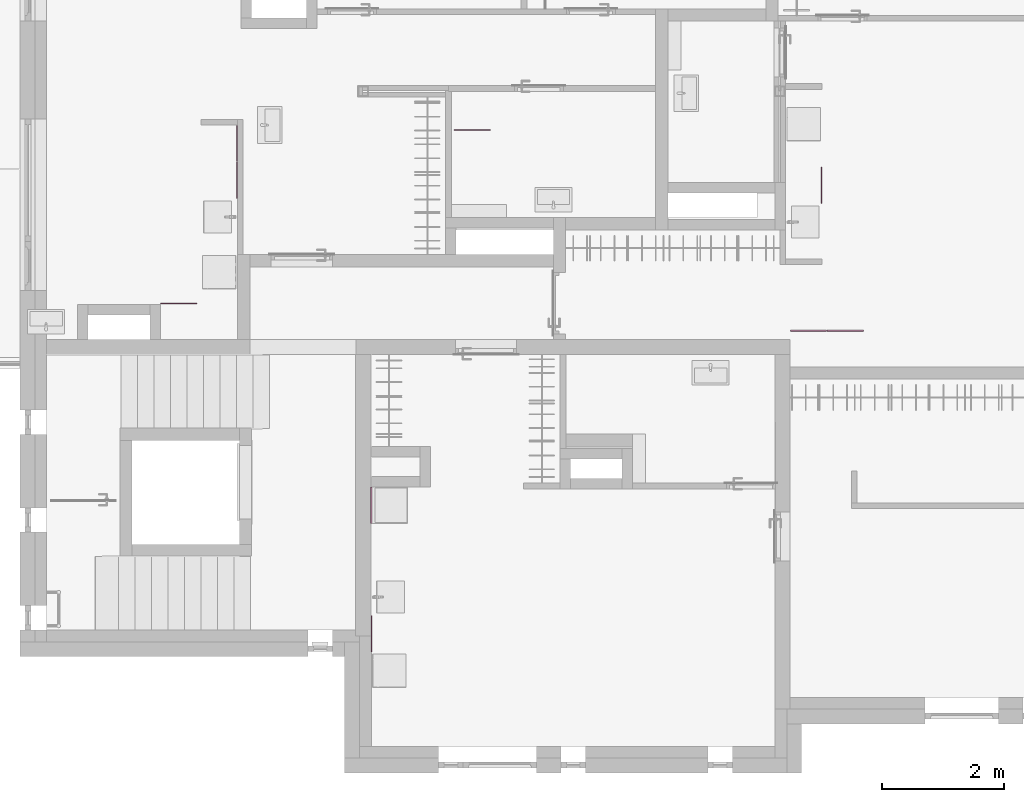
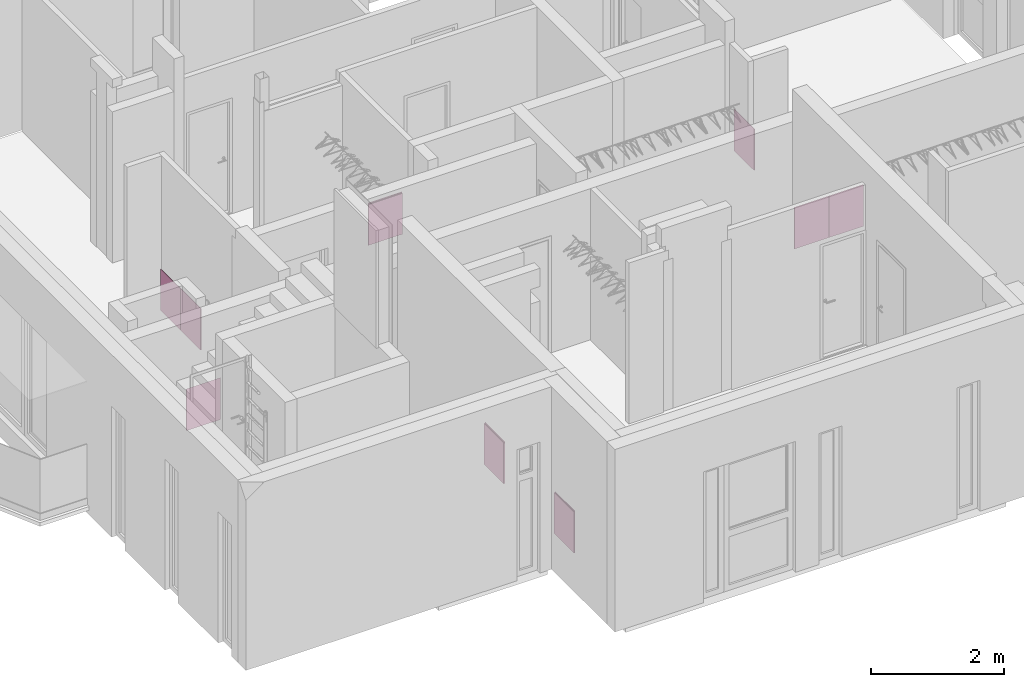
# One storey, part 20 of 42: 9 furnishings.
"""IFC2X3 building model written with IfcOpenShell, lengths in millimetres."""

import ifcopenshell
import ifcopenshell.guid

model = None  # the IFC model being written
_history = None  # IfcOwnerHistory: only IFC2X3 demands one
_inside = {}  # id of a spatial element -> (the spatial element, [elements in it])
_under = {}  # id of a project, library or spatial element -> (it, [spatial elements below it])
_declared = {}  # id of a project -> (the project, [libraries it declares])
_typed = {}  # id of a type object -> (the type object, [elements of that type])
_made_of = {}  # id of a material, layer set ... -> (it, [elements and type objects made of it])


def new_model(schema):
    """Start an empty IFC model of exactly this schema.

    Asked for "IFC4X3", IfcOpenShell would pick the latest addendum, in which some entities
    have other attributes; the version numbers below select the first issue.
    IFC2X3 requires an IfcOwnerHistory on every rooted entity: one is made here for all.
    """
    global model, _history
    if schema == "IFC4X3":
        model = ifcopenshell.file(schema_version=(4, 3, 0, 0))
    else:
        model = ifcopenshell.file(schema=schema)
    _inside.clear()
    _under.clear()
    _declared.clear()
    _typed.clear()
    _made_of.clear()
    _history = None
    if model.schema == "IFC2X3":
        org = make("IfcOrganization", Name="unknown")
        user = make(
            "IfcPersonAndOrganization",
            ThePerson=make("IfcPerson", FamilyName="unknown"),
            TheOrganization=org,
        )
        app = make(
            "IfcApplication",
            ApplicationDeveloper=org,
            Version="unknown",
            ApplicationFullName="unknown",
            ApplicationIdentifier="unknown",
        )
        _history = make(
            "IfcOwnerHistory",
            OwningUser=user,
            OwningApplication=app,
            ChangeAction="ADDED",
            CreationDate=0,
        )
    return model


def make(cls, **values):
    """One entity of the class cls with the attributes given. An attribute that is None is left unset."""
    return model.create_entity(
        cls, **{name: value for name, value in values.items() if value is not None}
    )


def entity(cls, *values):
    """Any entity or typed value of the class cls, its attributes in the order of the schema. None: left unset."""
    e = model.create_entity(cls)
    for i, value in enumerate(values):
        if value is not None:
            e[i] = value
    return e


def rooted(cls, **values):
    """An entity with a GlobalId (a new one), such as an element, a storey or a relation."""
    return make(cls, GlobalId=ifcopenshell.guid.new(), OwnerHistory=_history, **values)


def si_unit(unit_type, name, prefix=None):
    """IfcSIUnit, for example si_unit("LENGTHUNIT", "METRE", prefix="MILLI")."""
    return make("IfcSIUnit", UnitType=unit_type, Prefix=prefix, Name=name)


def converted_unit(unit_type, name, factor, base, dimensions=None, offset=None):
    """IfcConversionBasedUnit, such as the inch: factor (a typed value) times the base unit."""
    return make(
        "IfcConversionBasedUnit"
        if offset is None
        else "IfcConversionBasedUnitWithOffset",
        ConversionOffset=offset,
        Dimensions=None
        if dimensions is None
        else entity("IfcDimensionalExponents", *dimensions),
        UnitType=unit_type,
        Name=name,
        ConversionFactor=make(
            "IfcMeasureWithUnit", ValueComponent=factor, UnitComponent=base
        ),
    )


def assignment(units):
    """IfcUnitAssignment: the units of a project."""
    return None if units is None else make("IfcUnitAssignment", Units=units)


def point(xyz):
    """IfcCartesianPoint."""
    return None if xyz is None else make("IfcCartesianPoint", Coordinates=xyz)


def direction(xyz):
    """IfcDirection."""
    return None if xyz is None else make("IfcDirection", DirectionRatios=xyz)


def frame(location, z_axis=None, x_axis=None):
    """IfcAxis2Placement3D, a coordinate frame: its origin and axes. An axis left out is left unset."""
    return make(
        "IfcAxis2Placement3D",
        Location=point(location),
        Axis=direction(z_axis),
        RefDirection=direction(x_axis),
    )


def frame_2d(location, x_axis=None):
    """IfcAxis2Placement2D, a coordinate frame in the plane: its origin and x axis."""
    return make(
        "IfcAxis2Placement2D", Location=point(location), RefDirection=direction(x_axis)
    )


def origin():
    """The frame at (0, 0, 0) with its axes left unset."""
    return frame((0.0, 0.0, 0.0))


def origin_2d_with_axis():
    """The frame at (0, 0) in the plane with the x axis (1, 0) written out."""
    return frame_2d((0.0, 0.0), x_axis=(1.0, 0.0))


def place(relative_to, where):
    """IfcLocalPlacement: puts the frame where relative to a parent placement (None: the world)."""
    return make(
        "IfcLocalPlacement", PlacementRelTo=relative_to, RelativePlacement=where
    )


def context(
    kind, dimensions, precision=None, world=None, true_north=None, identifier=None
):
    """IfcGeometricRepresentationContext, for example the 3D "Model" context."""
    return make(
        "IfcGeometricRepresentationContext",
        ContextIdentifier=identifier,
        ContextType=kind,
        CoordinateSpaceDimension=dimensions,
        Precision=precision,
        WorldCoordinateSystem=world,
        TrueNorth=true_north,
    )


def subcontext(parent, identifier, kind, view, scale=None):
    """IfcGeometricRepresentationSubContext, for example "Body" below "Model"."""
    return make(
        "IfcGeometricRepresentationSubContext",
        ContextIdentifier=identifier,
        ContextType=kind,
        ParentContext=parent,
        TargetScale=scale,
        TargetView=view,
    )


def project(units=None, contexts=None):
    """IfcProject with its units and contexts."""
    return rooted(
        "IfcProject",
        Name="project",
        RepresentationContexts=contexts,
        UnitsInContext=assignment(units),
    )


def spatial(cls, under=None, at=None, **own):
    """A site, building, storey or space (cls), placed at a placement, below another one or the project."""
    s = rooted(cls, ObjectPlacement=at, **own)
    if under is not None:
        _under.setdefault(under.id(), (under, []))[1].append(s)
    return s


def polyline(points):
    """IfcPolyline through the points."""
    return make("IfcPolyline", Points=[point(p) for p in points])


def profile(cls, at=None, kind="AREA", **sizes):
    """A parametric profile (cls). Its sizes go by their IFC names, for example OverallWidth=200.0."""
    return make(cls, ProfileType=kind, Position=at, **sizes)


def rectangle(**sizes):
    """IfcRectangleProfileDef."""
    return profile("IfcRectangleProfileDef", **sizes)


def outline(outer, holes=None, kind="AREA"):
    """IfcArbitraryClosedProfileDef: a profile drawn as a closed curve; with holes, ...WithVoids."""
    if holes is None:
        return make("IfcArbitraryClosedProfileDef", ProfileType=kind, OuterCurve=outer)
    return make(
        "IfcArbitraryProfileDefWithVoids",
        ProfileType=kind,
        OuterCurve=outer,
        InnerCurves=holes,
    )


def extrude(swept, where, along, depth):
    """IfcExtrudedAreaSolid: the profile swept, set in the frame where, extruded along a direction by depth."""
    return make(
        "IfcExtrudedAreaSolid",
        SweptArea=swept,
        Position=where,
        ExtrudedDirection=direction(along),
        Depth=depth,
    )


def shape(context_of_items, identifier, shape_type, items):
    """IfcShapeRepresentation: the items that make up one representation, for example the "Body"."""
    return make(
        "IfcShapeRepresentation",
        ContextOfItems=context_of_items,
        RepresentationIdentifier=identifier,
        RepresentationType=shape_type,
        Items=items,
    )


def source(mapping_origin, context_of_items, identifier, shape_type, items):
    """IfcRepresentationMap: a shape defined once, which mapped items show again and again."""
    return make(
        "IfcRepresentationMap",
        MappingOrigin=mapping_origin,
        MappedRepresentation=shape(context_of_items, identifier, shape_type, items),
    )


def transform(
    local_origin,
    x_axis=None,
    y_axis=None,
    z_axis=None,
    scale=None,
    scale2=None,
    scale3=None,
    uniform=True,
):
    """IfcCartesianTransformationOperator3D, or its non-uniform kind. x_axis, y_axis, z_axis: its Axis1, 2, 3."""
    if uniform:
        return make(
            "IfcCartesianTransformationOperator3D",
            Axis1=direction(x_axis),
            Axis2=direction(y_axis),
            LocalOrigin=point(local_origin),
            Scale=scale,
            Axis3=direction(z_axis),
        )
    return make(
        "IfcCartesianTransformationOperator3DnonUniform",
        Axis1=direction(x_axis),
        Axis2=direction(y_axis),
        LocalOrigin=point(local_origin),
        Scale=scale,
        Axis3=direction(z_axis),
        Scale2=scale2,
        Scale3=scale3,
    )


def mapped(mapping_source, mapping_target):
    """IfcMappedItem: shows the shape of a source again, moved by a transform."""
    return make(
        "IfcMappedItem", MappingSource=mapping_source, MappingTarget=mapping_target
    )


def material(Name=None, Category=None):
    """IfcMaterial."""
    return make("IfcMaterial", Name=Name, Category=Category)


def made_of(thing, what):
    """Note that an element or type object is made of a material, layer set ...; save() writes the relation."""
    if what is not None:
        _made_of.setdefault(what.id(), (what, []))[1].append(thing)
    return thing


def type_object(cls, material=None, **own):
    """A type object (cls), such as IfcWallType, which elements share."""
    return made_of(rooted(cls, **own), material)


def type_shapes(of_type, sources):
    """Give a type object the sources (RepresentationMaps) that its elements show as mapped items."""
    of_type.RepresentationMaps = sources


def element(
    cls,
    number,
    at=None,
    inside=None,
    cuts=None,
    type_object=None,
    material=None,
    context=None,
    identifier="Body",
    shape_type=None,
    held_by="IfcProductDefinitionShape",
    body=None,
    shapes=None,
    **own,
):
    """One element of the class cls, such as IfcWall. Its Tag is "e" and its number.

    at: its placement. inside: the storey or other place that contains it. cuts: it is an
    opening in that element (IfcRelVoidsElement). A single representation is given by context,
    identifier, shape_type and body (its items); several are given by shapes. held_by: the class
    of the entity that holds the representations. save() writes the other relations.
    """
    e = rooted(cls, Tag="e%d" % number, ObjectPlacement=at, **own)
    if body is not None:
        shapes = [shape(context, identifier, shape_type, body)]
    if shapes is not None:
        e.Representation = make(held_by, Representations=shapes)
    if inside is not None:
        _inside.setdefault(inside.id(), (inside, []))[1].append(e)
    if cuts is not None:
        rooted(
            "IfcRelVoidsElement", RelatingBuildingElement=cuts, RelatedOpeningElement=e
        )
    if type_object is not None:
        _typed.setdefault(type_object.id(), (type_object, []))[1].append(e)
    return made_of(e, material)


def aggregate(whole, parts):
    """IfcRelAggregates: a whole, such as a stair, and the parts it consists of."""
    return rooted("IfcRelAggregates", RelatingObject=whole, RelatedObjects=parts)


def save(model, path):
    """Write the relations noted so far, then the file.

    IfcRelAggregates (storeys below a building ...), IfcRelContainedInSpatialStructure (elements
    in a storey), IfcRelDefinesByType, IfcRelAssociatesMaterial and IfcRelDeclares: one each for
    every whole, place, type object, material and project.
    """
    for whole, parts in _under.values():
        aggregate(whole, parts)
    for where, things in _inside.values():
        rooted(
            "IfcRelContainedInSpatialStructure",
            RelatedElements=things,
            RelatingStructure=where,
        )
    for kind, things in _typed.values():
        rooted("IfcRelDefinesByType", RelatedObjects=things, RelatingType=kind)
    for what, things in _made_of.values():
        rooted("IfcRelAssociatesMaterial", RelatedObjects=things, RelatingMaterial=what)
    for by, libraries in _declared.values():
        rooted("IfcRelDeclares", RelatingContext=by, RelatedDefinitions=libraries)
    model.write(path)


model = new_model("IFC2X3")

# Units and contexts
model_context = context("Model", 3, precision=0.01, world=origin(), true_north=direction((6.123233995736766e-17, 1.0)))
plan_context = context("Plan", 3, precision=0.01, world=origin(), true_north=direction((6.123233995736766e-17, 1.0)))
body_context = subcontext(model_context, "Body", "Model", "MODEL_VIEW")
ifc_project = project(units=[si_unit("LENGTHUNIT", "METRE", prefix="MILLI"), converted_unit("PLANEANGLEUNIT", "DEGREE", entity("IfcPlaneAngleMeasure", 0.017453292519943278), si_unit("PLANEANGLEUNIT", "RADIAN"), dimensions=[0, 0, 0, 0, 0, 0, 0]), si_unit("AREAUNIT", "SQUARE_METRE")], contexts=[model_context, plan_context])

# Site, building, storey, space
site_placement = place(None, origin())
site = spatial("IfcSite", under=ifc_project, at=site_placement, Name="Default", CompositionType="ELEMENT")
building_placement = place(site_placement, origin())
building = spatial("IfcBuilding", under=site, at=building_placement, CompositionType="ELEMENT")
storey_placement = place(building_placement, frame((0.0, 0.0, 9465.000076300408)))
storey = spatial("IfcBuildingStorey", under=building, at=storey_placement, Name="4K", CompositionType="ELEMENT", Elevation=9465.000076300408)
space_1_placement = place(storey_placement, origin())
space_1 = spatial("IfcSpace", under=storey, at=space_1_placement, Name="4-9.2", CompositionType="ELEMENT", InteriorOrExteriorSpace="INTERNAL")

# Furnishings
ifc_material = material(Name="<Unnamed>")
furniture_type = type_object("IfcFurnitureType", Name="HR_Casework-components_Front-panel_Generic_v1_1x:Default", AssemblyPlace="NOTDEFINED", material=ifc_material)
shared_shape = source(origin(), body_context, "Body", "SweptSolid", [
    extrude(outline(polyline([(-7.0, -9.500000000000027), (15.0, -9.500000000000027), (15.0, -8.499999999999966), (-6.0, -8.499999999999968), (-6.0, 8.499999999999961), (-2.0, 8.499999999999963), (-2.0, 9.500000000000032), (-7.0, 9.500000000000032), (-7.0, -9.500000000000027)])), frame((-297.0, 367.0, 9.499999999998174), z_axis=(1.0, 0.0, 0.0), x_axis=(0.0, 1.0, 0.0)), (0.0, 0.0, 1.0), 593.9999999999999),
    extrude(rectangle(XDim=594.0, YDim=745.0000000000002, at=origin_2d_with_axis()), frame((0.0, -12.500000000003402, 0.0), z_axis=(0.0, 0.0, 1.0), x_axis=(-1.0, 0.0, 0.0)), (0.0, 0.0, 1.0), 19.00000000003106),
])
type_shapes(furniture_type, [shared_shape])
for number, where, z_axis, x_axis in (
    (1, (3101.0, 9848.499959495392, 485.0), (1.0, 0.0, 0.0), (0.0, 1.0, 0.0)),
    (2, (3101.0, 9248.499959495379, 485.0), (1.0, 0.0, 0.0), (0.0, 1.0, 0.0)),
):
    element("IfcFurnishingElement", number, at=place(space_1_placement, frame(where, z_axis=z_axis, x_axis=x_axis)), inside=space_1, type_object=furniture_type, material=ifc_material, Name="HR_Casework-components_Front-panel_Generic_v1_1x:Default", ObjectType="HR_Casework-components_Front-panel_Generic_v1_1x:Default", context=body_context, shape_type="MappedRepresentation", body=[
        mapped(shared_shape, transform((0.0, 0.0, 0.0), scale=1.0)),
    ])

# Space
space_2_placement = place(storey_placement, origin())
space_2 = spatial("IfcSpace", under=storey, at=space_2_placement, Name="4-10.2", CompositionType="ELEMENT", InteriorOrExteriorSpace="INTERNAL")

# Furnishings
for number, where, z_axis, x_axis in (
    (3, (13044.99353497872, 6781.0, 485.0), (0.0, 1.0, 0.0), (-1.0, 0.0, 0.0)),
    (4, (12444.993534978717, 6781.0, 485.0), (0.0, 1.0, 0.0), (-1.0, 0.0, 0.0)),
):
    element("IfcFurnishingElement", number, at=place(space_2_placement, frame(where, z_axis=z_axis, x_axis=x_axis)), inside=space_2, type_object=furniture_type, material=ifc_material, Name="HR_Casework-components_Front-panel_Generic_v1_1x:Default", ObjectType="HR_Casework-components_Front-panel_Generic_v1_1x:Default", context=body_context, shape_type="MappedRepresentation", body=[
        mapped(shared_shape, transform((0.0, 0.0, 0.0), scale=1.0)),
    ])

# Space
space_3_placement = place(storey_placement, origin())
space_3 = spatial("IfcSpace", under=storey, at=space_3_placement, Name="4-11.2", CompositionType="ELEMENT", InteriorOrExteriorSpace="INTERNAL")

# Furnishings
for number, where, z_axis, x_axis in (
    (5, (5313.99719708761, 3940.0, 485.0), (-1.0, 0.0, 0.0), (0.0, -1.0, 0.0)),
    (6, (5319.0, 1840.0, 485.0), (-1.0, 0.0, 0.0), (0.0, -1.0, 0.0)),
):
    element("IfcFurnishingElement", number, at=place(space_3_placement, frame(where, z_axis=z_axis, x_axis=x_axis)), inside=space_3, type_object=furniture_type, material=ifc_material, Name="HR_Casework-components_Front-panel_Generic_v1_1x:Default", ObjectType="HR_Casework-components_Front-panel_Generic_v1_1x:Default", context=body_context, shape_type="MappedRepresentation", body=[
        mapped(shared_shape, transform((0.0, 0.0, 0.0), scale=1.0)),
    ])

# Space
space_4_placement = place(storey_placement, origin())
space_4 = spatial("IfcSpace", under=storey, at=space_4_placement, Name="4-9.6", CompositionType="ELEMENT", InteriorOrExteriorSpace="INTERNAL")

# Furnishings
furnishing_1_placement = place(space_4_placement, frame((6952.0, 10080.0, 485.0), z_axis=(0.0, -1.0, 0.0), x_axis=(1.0, 0.0, 0.0)))
element("IfcFurnishingElement", 7, at=furnishing_1_placement, inside=space_4, type_object=furniture_type, material=ifc_material, Name="HR_Casework-components_Front-panel_Generic_v1_1x:Default", ObjectType="HR_Casework-components_Front-panel_Generic_v1_1x:Default", context=body_context, shape_type="MappedRepresentation", body=[
    mapped(shared_shape, transform((0.0, 0.0, 0.0), scale=1.0)),
])
furnishing_2_placement = place(space_2_placement, frame((12649.0, 9166.0, 485.0), z_axis=(1.0, 0.0, 0.0), x_axis=(0.0, 1.0, 0.0)))
element("IfcFurnishingElement", 8, at=furnishing_2_placement, inside=space_2, type_object=furniture_type, material=ifc_material, Name="HR_Casework-components_Front-panel_Generic_v1_1x:Default", ObjectType="HR_Casework-components_Front-panel_Generic_v1_1x:Default", context=body_context, shape_type="MappedRepresentation", body=[
    mapped(shared_shape, transform((0.0, 0.0, 0.0), scale=1.0)),
])
furnishing_3_placement = place(space_1_placement, frame((2160.0, 7225.999959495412, 485.0), z_axis=(0.0, 1.0, 0.0), x_axis=(-1.0, 0.0, 0.0)))
element("IfcFurnishingElement", 9, at=furnishing_3_placement, inside=space_1, type_object=furniture_type, material=ifc_material, Name="HR_Casework-components_Front-panel_Generic_v1_1x:Default", ObjectType="HR_Casework-components_Front-panel_Generic_v1_1x:Default", context=body_context, shape_type="MappedRepresentation", body=[
    mapped(shared_shape, transform((0.0, 0.0, 0.0), scale=1.0)),
])

save(model, "model.ifc")
